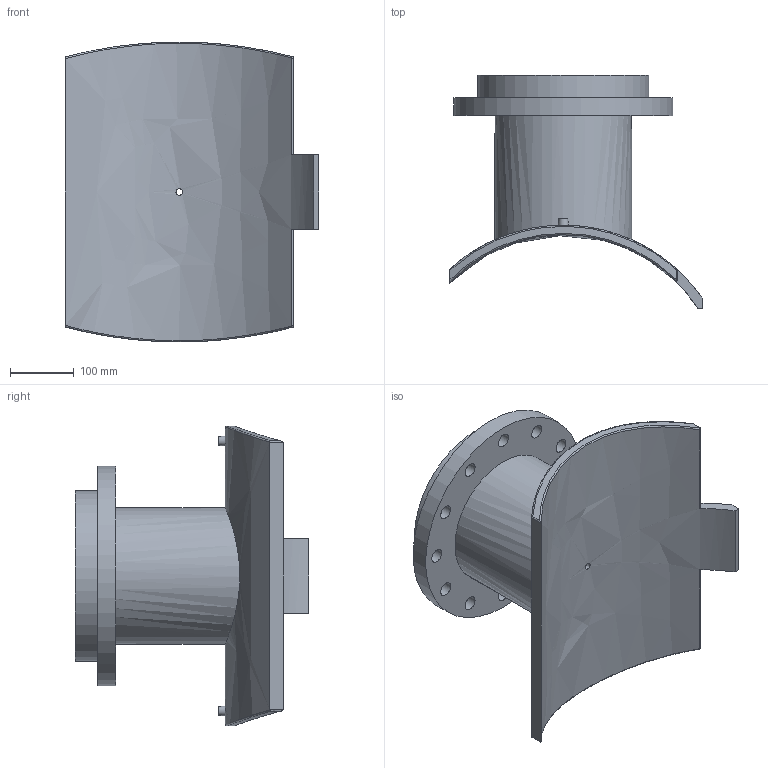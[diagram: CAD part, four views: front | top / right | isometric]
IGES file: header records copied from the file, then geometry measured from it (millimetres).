
Global section: file name: 495903500200T; native system: Autodesk Inventor 2019; preprocessor: unknown; author: KIM; date: 20240403.210102; units: millimetre
Bounding box: 398 x 365.64 x 470 mm (x, y, z)
Volume: 8705831.4 mm3; surface area: 852082.2 mm2
Topology: 1 solids, 1 shells, 63 faces, 166 edges, 128 vertices
Faces by surface type: bspline 63
